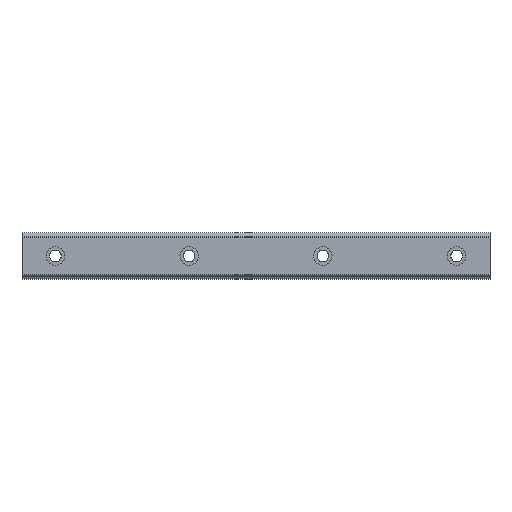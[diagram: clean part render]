
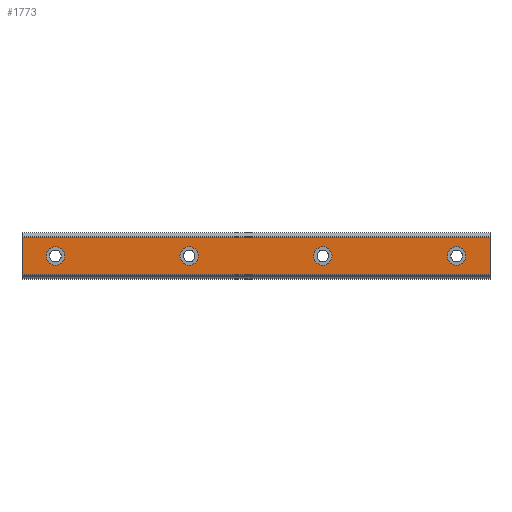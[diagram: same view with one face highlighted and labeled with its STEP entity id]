
A CAD part, top view. The second image highlights one B-rep face of the part: STEP entity #1773.
In plain terms, the highlighted planar face has unit normal (0, 0, 1).
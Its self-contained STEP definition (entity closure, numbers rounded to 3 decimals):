
#1426=CARTESIAN_POINT('POINT95',(260.,-11.3,
   23.));
#1427=VERTEX_POINT('VERTEX95',#1426);
#1434=CARTESIAN_POINT('POINT96',(-20.,-11.3,
   23.));
#1435=VERTEX_POINT('VERTEX96',#1434);
#1436=CARTESIAN_POINT('POS169',(-20.,-11.3,
   23.));
#1437=DIRECTION('DIR258',(1.,0.,0.));
#1438=VECTOR('VEC80',#1437,1.);
#1439=LINE('STRAIGHT80',#1436,#1438);
#1440=EDGE_CURVE('EDGE138',#1435,#1427,#1439,.T.);
#1476=CARTESIAN_POINT('POINT97',(-20.,11.3,
   23.));
#1477=VERTEX_POINT('VERTEX97',#1476);
#1478=CARTESIAN_POINT('POS172',(-20.,-11.3,
   23.));
#1479=DIRECTION('DIR262',(0.,1.,0.));
#1480=VECTOR('VEC82',#1479,1.);
#1481=LINE('STRAIGHT82',#1478,#1480);
#1482=EDGE_CURVE('EDGE140',#1435,#1477,#1481,.T.);
#1515=CARTESIAN_POINT('POINT98',(260.,11.3,
   23.));
#1516=VERTEX_POINT('VERTEX98',#1515);
#1525=CARTESIAN_POINT('POS176',(-20.,11.3,
   23.));
#1526=DIRECTION('DIR267',(1.,0.,0.));
#1527=VECTOR('VEC85',#1526,1.);
#1528=LINE('STRAIGHT85',#1525,#1527);
#1529=EDGE_CURVE('EDGE143',#1477,#1516,#1528,.T.);
#1559=CARTESIAN_POINT('POS178',(260.,0.,
   23.));
#1560=DIRECTION('DIR270',(0.,1.,0.));
#1561=VECTOR('VEC86',#1560,1.);
#1562=LINE('STRAIGHT86',#1559,#1561);
#1563=EDGE_CURVE('EDGE144',#1427,#1516,#1562,.T.);
#1590=CARTESIAN_POINT('POINT99',(85.5,0.,
   23.));
#1591=VERTEX_POINT('VERTEX99',#1590);
#1599=CARTESIAN_POINT('POINT100',(74.5,0.,
   23.));
#1600=VERTEX_POINT('VERTEX100',#1599);
#1607=CARTESIAN_POINT('POS182',(80.,0.,23.)
   );
#1608=DIRECTION('DIR275',(0.,0.,-1.));
#1609=DIRECTION('DIR276',(1.,0.,0.));
#1610=AXIS2_PLACEMENT_3D('AXIS94',#1607,#1608,#1609);
#1611=CIRCLE('ELLIPSE48',#1610,5.5);
#1612=EDGE_CURVE('EDGE147',#1591,#1600,#1611,.T.);
#1623=EDGE_CURVE('EDGE148',#1600,#1591,#1611,.T.);
#1630=CARTESIAN_POINT('POINT101',(165.5,0.,
   23.));
#1631=VERTEX_POINT('VERTEX101',#1630);
#1639=CARTESIAN_POINT('POINT102',(154.5,0.,
   23.));
#1640=VERTEX_POINT('VERTEX102',#1639);
#1647=CARTESIAN_POINT('POS186',(160.,0.,23.)
   );
#1648=DIRECTION('DIR281',(0.,0.,-1.));
#1649=DIRECTION('DIR282',(1.,0.,0.));
#1650=AXIS2_PLACEMENT_3D('AXIS96',#1647,#1648,#1649);
#1651=CIRCLE('ELLIPSE49',#1650,5.5);
#1652=EDGE_CURVE('EDGE151',#1631,#1640,#1651,.T.);
#1663=EDGE_CURVE('EDGE152',#1640,#1631,#1651,.T.);
#1670=CARTESIAN_POINT('POINT103',(245.5,0.,
   23.));
#1671=VERTEX_POINT('VERTEX103',#1670);
#1679=CARTESIAN_POINT('POINT104',(234.5,0.,
   23.));
#1680=VERTEX_POINT('VERTEX104',#1679);
#1687=CARTESIAN_POINT('POS190',(240.,0.,23.)
   );
#1688=DIRECTION('DIR287',(0.,0.,-1.));
#1689=DIRECTION('DIR288',(1.,0.,0.));
#1690=AXIS2_PLACEMENT_3D('AXIS98',#1687,#1688,#1689);
#1691=CIRCLE('ELLIPSE50',#1690,5.5);
#1692=EDGE_CURVE('EDGE155',#1671,#1680,#1691,.T.);
#1703=EDGE_CURVE('EDGE156',#1680,#1671,#1691,.T.);
#1735=ORIENTED_EDGE('COEDGE305',*,*,#1703,.T.);
#1736=ORIENTED_EDGE('COEDGE306',*,*,#1692,.T.);
#1737=EDGE_LOOP('NONE',(#1735,#1736));
#1738=FACE_BOUND('LOOP1',#1737,.T.);
#1739=ORIENTED_EDGE('COEDGE307',*,*,#1663,.T.);
#1740=ORIENTED_EDGE('COEDGE308',*,*,#1652,.T.);
#1741=EDGE_LOOP('NONE',(#1739,#1740));
#1742=FACE_BOUND('LOOP1',#1741,.T.);
#1743=ORIENTED_EDGE('COEDGE309',*,*,#1623,.T.);
#1744=ORIENTED_EDGE('COEDGE310',*,*,#1612,.T.);
#1745=EDGE_LOOP('NONE',(#1743,#1744));
#1746=FACE_BOUND('LOOP1',#1745,.T.);
#1747=CARTESIAN_POINT('POINT107',(-5.5,0.,
   23.));
#1748=VERTEX_POINT('VERTEX107',#1747);
#1749=CARTESIAN_POINT('POINT108',(5.5,0.,
   23.));
#1750=VERTEX_POINT('VERTEX108',#1749);
#1751=CARTESIAN_POINT('POS194',(0.,0.,23.)
   );
#1752=DIRECTION('DIR295',(0.,0.,-1.));
#1753=DIRECTION('DIR296',(1.,0.,0.));
#1754=AXIS2_PLACEMENT_3D('AXIS102',#1751,#1752,#1753);
#1755=CIRCLE('ELLIPSE52',#1754,5.5);
#1756=EDGE_CURVE('EDGE159',#1748,#1750,#1755,.T.);
#1757=ORIENTED_EDGE('COEDGE311',*,*,#1756,.T.);
#1758=EDGE_CURVE('EDGE160',#1750,#1748,#1755,.T.);
#1759=ORIENTED_EDGE('COEDGE312',*,*,#1758,.T.);
#1760=EDGE_LOOP('NONE',(#1757,#1759));
#1761=FACE_BOUND('LOOP1',#1760,.T.);
#1762=ORIENTED_EDGE('COEDGE313',*,*,#1563,.T.);
#1763=ORIENTED_EDGE('COEDGE314',*,*,#1529,.F.);
#1764=ORIENTED_EDGE('COEDGE315',*,*,#1482,.F.);
#1765=ORIENTED_EDGE('COEDGE316',*,*,#1440,.T.);
#1766=EDGE_LOOP('NONE',(#1762,#1763,#1764,#1765));
#1767=FACE_BOUND('LOOP1',#1766,.T.);
#1768=CARTESIAN_POINT('POS195',(-20.,0.,
   23.));
#1769=DIRECTION('DIR297',(0.,0.,1.));
#1770=DIRECTION('DIR298',(1.,0.,0.));
#1771=AXIS2_PLACEMENT_3D('AXIS103',#1768,#1769,#1770);
#1772=PLANE('PLANE26',#1771);
#1773=ADVANCED_FACE('FACE58',(#1738,#1742,#1746,#1761,#1767),#1772,.T.);
